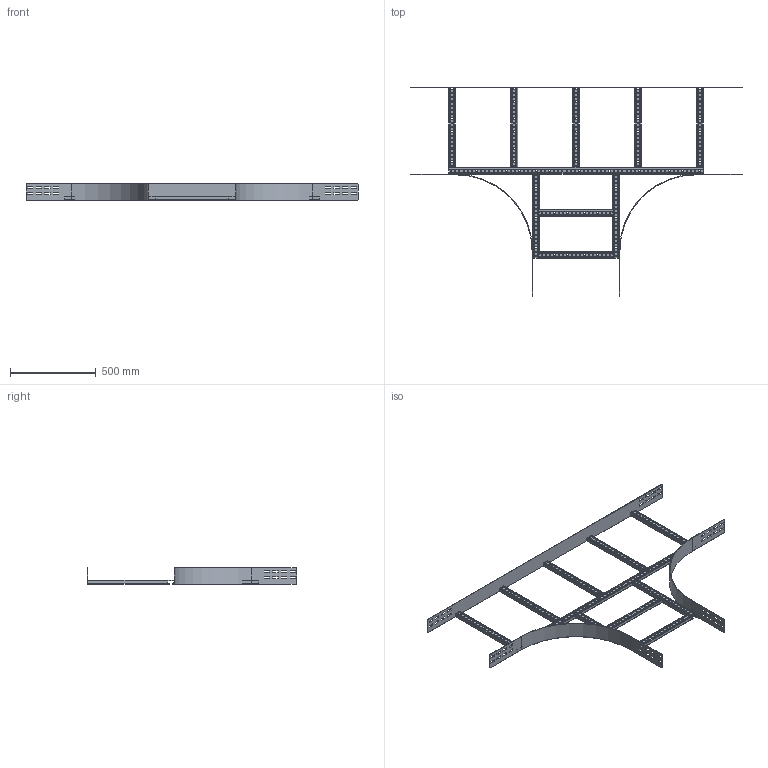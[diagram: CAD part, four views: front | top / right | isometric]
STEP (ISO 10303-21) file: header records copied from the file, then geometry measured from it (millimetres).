
FILE_DESCRIPTION(('Creo Elements/Direct Modeling STEP Export'),'2;1');
FILE_NAME('WPTP10-50-45.stp','2016-06-03T 7:33:16',(''),(''),'PTC Creo Elements/Direct Modeling STEP processor for AP214 (Solid Model)','PTC Creo Elements/Direct Modeling 19.0C 15-Aug-2015 (C) Parametric Technology GmbH','');
FILE_SCHEMA(('AUTOMOTIVE_DESIGN { 1 0 10303 214 1 1 1 1 }'));
Length unit declared in the file: millimetre
Products named in the file (7): WPTPS50; WPKS50.1; WPBI_100; WPKSP2_300.1; WPKSP1-50; WPAAG_100-50; WPTP10-50-45
Assembly tree (13 placements, depth 2):
  WPTP10-50-45
    WPTPS50  x5
    WPBI_100  x2
    WPKS50.1  x2
    WPKSP2_300.1  x2
    WPAAG_100-50
    WPKSP1-50
Bounding box: 1935 x 1223 x 95 mm (x, y, z)
Volume: 2032411.1 mm3; surface area: 1983943 mm2
Topology: 13 solids, 13 shells, 1560 faces, 4602 edges, 3068 vertices
Faces by surface type: plane 904, cylinder 656
Entity records: 26846 total; most frequent: CARTESIAN_POINT 4617, ORIENTED_EDGE 4608, DIRECTION 4486, EDGE_CURVE 2304, VECTOR 1676, LINE 1676, VERTEX_POINT 1536, AXIS2_PLACEMENT_3D 1405
